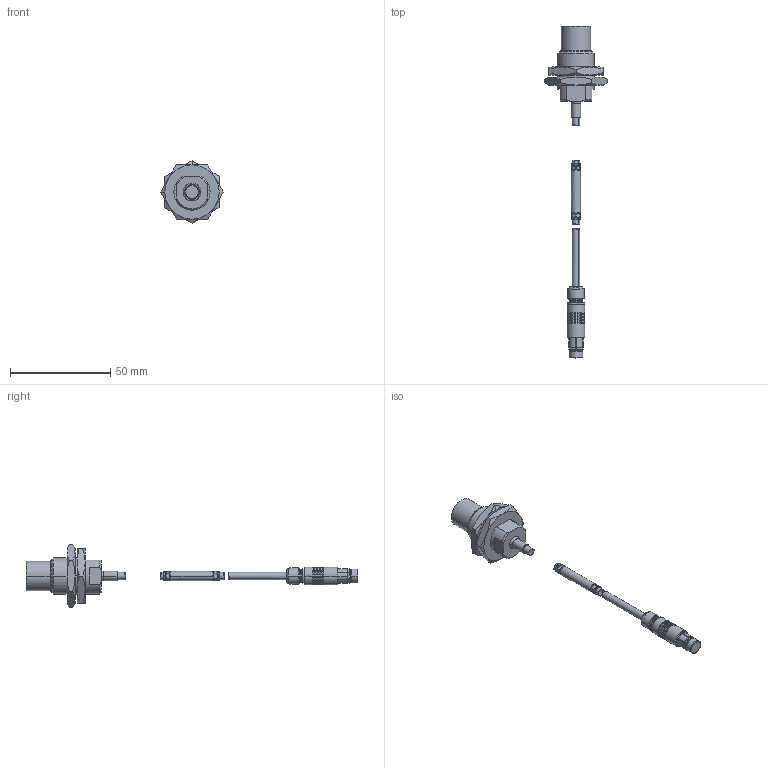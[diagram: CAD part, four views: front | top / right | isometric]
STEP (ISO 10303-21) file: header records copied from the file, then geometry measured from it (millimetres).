
FILE_DESCRIPTION((''),'2;1');
FILE_NAME('0000143124_SW0001','2020-06-22T13:31:01',('11000775'),(''),'CREO PARAMETRIC BY PTC INC, 2019030','CREO PARAMETRIC BY PTC INC, 2019030','');
FILE_SCHEMA(('AUTOMOTIVE_DESIGN { 1 0 10303 214 1 1 1 1 }'));
Length unit declared in the file: millimetre
Products named in the file (1): 0000143124_SW0001
Bounding box: 31.18 x 165.2 x 31.18 mm (x, y, z)
Volume: 13527 mm3; surface area: 8617.9 mm2
Topology: 3 solids, 6 shells, 519 faces, 1330 edges, 853 vertices
Faces by surface type: plane 190, cylinder 164, cone 115, torus 46, bspline 4
Entity records: 26141 total; most frequent: CARTESIAN_POINT 5568, ORIENTED_EDGE 2656, DIRECTION 2533, PRESENTATION_STYLE_ASSIGNMENT 1807, STYLED_ITEM 1335, CURVE_STYLE 1332, EDGE_CURVE 1328, AXIS2_PLACEMENT_3D 1013
